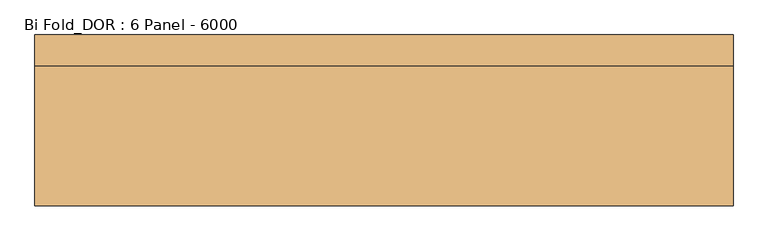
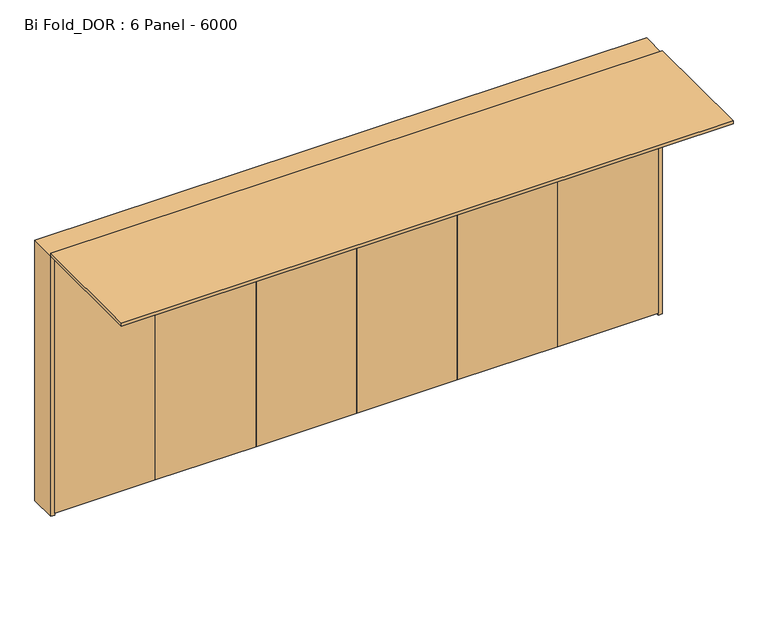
"""IFC4 building model written with IfcOpenShell, lengths in millimetres: door geometry, Bi Fold_DOR : 6 Panel - 6000."""

from ifc_helpers import new_model, si_unit, frame, origin, place, context, project, spatial, polyline, outline, extrude, source, transform, mapped, element, save


def bi_fold_dor_6_panel_6000_871157eb(model_context):
    return source(origin(), model_context, "Body", "SweptSolid", [
        extrude(outline(polyline([(2960.0, -95.0), (2960.0, -135.0), (1973.3333333, -135.0), (1973.3333333, -95.0), (2960.0, -95.0)])), frame((0.0, 0.0, 20.0), z_axis=(0.0, 0.0, 1.0), x_axis=(1.0, 0.0, 0.0)), (0.0, 0.0, 1.0), 2640.0),
        extrude(outline(polyline([(1973.3333333, -95.0), (1973.3333333, -135.0), (986.6666667, -135.0), (986.6666667, -95.0), (1973.3333333, -95.0)])), frame((0.0, 0.0, 20.0), z_axis=(0.0, 0.0, 1.0), x_axis=(1.0, 0.0, 0.0)), (0.0, 0.0, 1.0), 2640.0),
        extrude(outline(polyline([(986.6666667, -95.0), (986.6666667, -135.0), (0.0, -135.0), (0.0, -95.0), (986.6666667, -95.0)])), frame((0.0, 0.0, 20.0), z_axis=(0.0, 0.0, 1.0), x_axis=(1.0, 0.0, 0.0)), (0.0, 0.0, 1.0), 2640.0),
        extrude(outline(polyline([(0.0, -95.0), (0.0, -135.0), (-986.6666667, -135.0), (-986.6666667, -95.0), (0.0, -95.0)])), frame((0.0, 0.0, 20.0), z_axis=(0.0, 0.0, 1.0), x_axis=(1.0, 0.0, 0.0)), (0.0, 0.0, 1.0), 2640.0),
        extrude(outline(polyline([(-986.6666667, -95.0), (-986.6666667, -135.0), (-1973.3333333, -135.0), (-1973.3333333, -95.0), (-986.6666667, -95.0)])), frame((0.0, 0.0, 20.0), z_axis=(0.0, 0.0, 1.0), x_axis=(1.0, 0.0, 0.0)), (0.0, 0.0, 1.0), 2640.0),
        extrude(outline(polyline([(-1973.3333333, -95.0), (-1973.3333333, -135.0), (-2960.0, -135.0), (-2960.0, -95.0), (-1973.3333333, -95.0)])), frame((0.0, 0.0, 20.0), z_axis=(0.0, 0.0, 1.0), x_axis=(1.0, 0.0, 0.0)), (0.0, 0.0, 1.0), 2640.0),
        extrude(outline(polyline([(0.0, 3000.0), (2700.0, 3000.0), (2700.0, -3000.0), (0.0, -3000.0), (0.0, -2960.0), (2660.0, -2960.0), (2660.0, 2960.0), (0.0, 2960.0), (0.0, 3000.0)])), frame((0.0, -135.0, 0.0), z_axis=(0.0, 1.0, 0.0), x_axis=(0.0, 0.0, 1.0)), (0.0, 0.0, 1.0), 270.0),
        extrude(outline(polyline([(3000.0, -135.0), (3000.0, -1335.0), (-3000.0, -1335.0), (-3000.0, -135.0), (3000.0, -135.0)])), frame((0.0, 0.0, 2700.0), z_axis=(0.0, 0.0, 1.0), x_axis=(1.0, 0.0, 0.0)), (0.0, 0.0, 1.0), 30.0),
    ])


if __name__ == "__main__":
    model = new_model("IFC4")
    model_context = context("Model", 3, world=origin())
    ifc_project = project(units=[si_unit("LENGTHUNIT", "METRE", prefix="MILLI")], contexts=[model_context])
    site = spatial("IfcSite", under=ifc_project)
    building = spatial("IfcBuilding", under=site)
    placement = place(None, origin())
    bi_fold_dor_6_panel_6000_shape = bi_fold_dor_6_panel_6000_871157eb(model_context)
    element("IfcDoor", 1, ObjectType="Bi Fold_DOR : 6 Panel - 6000", at=placement, inside=building, context=model_context, shape_type="MappedRepresentation", body=[
        mapped(bi_fold_dor_6_panel_6000_shape, transform((0.0, 0.0, 0.0), x_axis=(1.0, 0.0, 0.0), y_axis=(0.0, 1.0, 0.0), z_axis=(0.0, 0.0, 1.0))),
    ])
    save(model, "model.ifc")
